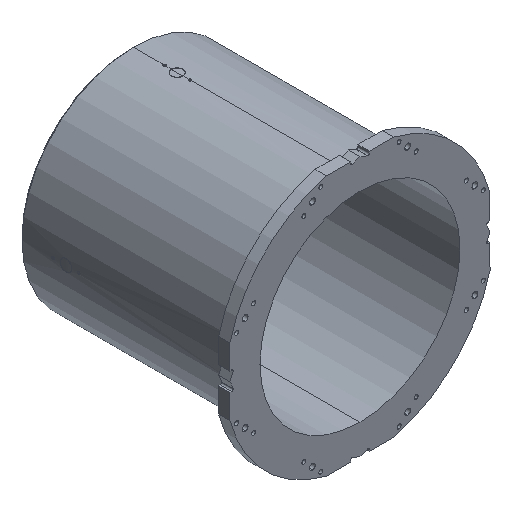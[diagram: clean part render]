
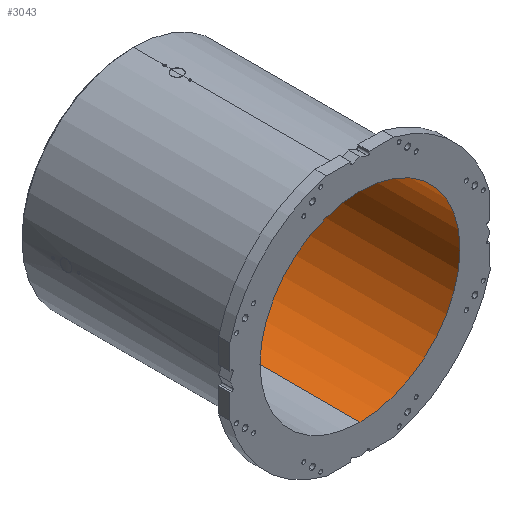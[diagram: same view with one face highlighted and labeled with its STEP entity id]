
A CAD part, isometric view. The second image highlights one B-rep face of the part: STEP entity #3043.
In plain terms, the highlighted cylindrical face has radius 350 mm (diameter 700 mm), a partial arc.
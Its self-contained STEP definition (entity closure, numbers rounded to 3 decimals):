
#648 = VERTEX_POINT ( 'NONE', #9007 ) ;
#1442 = CIRCLE ( 'NONE', #5794, 350. ) ;
#2147 = FACE_OUTER_BOUND ( 'NONE', #11529, .T. ) ;
#2324 = EDGE_CURVE ( 'NONE', #10703, #4646, #8348, .T. ) ;
#2332 = CARTESIAN_POINT ( 'NONE',  ( 0., 0., -350. ) ) ;
#2793 = CARTESIAN_POINT ( 'NONE',  ( 0., 0., -350. ) ) ;
#3043 = ADVANCED_FACE ( 'NONE', ( #2147 ), #5017, .F. ) ;
#3383 = DIRECTION ( 'NONE',  ( 0., 1., 0. ) ) ;
#3742 = CARTESIAN_POINT ( 'NONE',  ( 0., 0., 0. ) ) ;
#4072 = DIRECTION ( 'NONE',  ( 0., 1., 0. ) ) ;
#4646 = VERTEX_POINT ( 'NONE', #7626 ) ;
#4946 = AXIS2_PLACEMENT_3D ( 'NONE', #3742, #11633, #9673 ) ;
#5017 = CYLINDRICAL_SURFACE ( 'NONE', #9653, 350. ) ;
#5189 = EDGE_CURVE ( 'NONE', #10906, #10703, #10516, .T. ) ;
#5734 = CARTESIAN_POINT ( 'NONE',  ( 0., 0., 350. ) ) ;
#5794 = AXIS2_PLACEMENT_3D ( 'NONE', #8963, #4072, #7998 ) ;
#6102 = EDGE_CURVE ( 'NONE', #10906, #648, #12104, .T. ) ;
#6106 = DIRECTION ( 'NONE',  ( 0., 0., 1. ) ) ;
#6439 = ORIENTED_EDGE ( 'NONE', *, *, #2324, .F. ) ;
#7428 = ORIENTED_EDGE ( 'NONE', *, *, #7631, .T. ) ;
#7626 = CARTESIAN_POINT ( 'NONE',  ( 0., 763., -350. ) ) ;
#7631 = EDGE_CURVE ( 'NONE', #648, #4646, #1442, .T. ) ;
#7998 = DIRECTION ( 'NONE',  ( 0., 0., 1. ) ) ;
#8348 = LINE ( 'NONE', #2332, #10018 ) ;
#8937 = DIRECTION ( 'NONE',  ( 0., 1., 0. ) ) ;
#8963 = CARTESIAN_POINT ( 'NONE',  ( 0., 763., 0. ) ) ;
#9007 = CARTESIAN_POINT ( 'NONE',  ( 0., 763., 350. ) ) ;
#9196 = CARTESIAN_POINT ( 'NONE',  ( 0., 0., 0. ) ) ;
#9498 = VECTOR ( 'NONE', #12172, 1000. ) ;
#9653 = AXIS2_PLACEMENT_3D ( 'NONE', #9196, #8937, #6106 ) ;
#9673 = DIRECTION ( 'NONE',  ( 0., 0., 1. ) ) ;
#10018 = VECTOR ( 'NONE', #3383, 1000. ) ;
#10036 = CARTESIAN_POINT ( 'NONE',  ( 0., 0., 350. ) ) ;
#10516 = CIRCLE ( 'NONE', #4946, 350. ) ;
#10703 = VERTEX_POINT ( 'NONE', #2793 ) ;
#10888 = ORIENTED_EDGE ( 'NONE', *, *, #6102, .T. ) ;
#10906 = VERTEX_POINT ( 'NONE', #5734 ) ;
#11529 = EDGE_LOOP ( 'NONE', ( #6439, #12743, #10888, #7428 ) ) ;
#11633 = DIRECTION ( 'NONE',  ( 0., 1., 0. ) ) ;
#12104 = LINE ( 'NONE', #10036, #9498 ) ;
#12172 = DIRECTION ( 'NONE',  ( 0., 1., 0. ) ) ;
#12743 = ORIENTED_EDGE ( 'NONE', *, *, #5189, .F. ) ;
